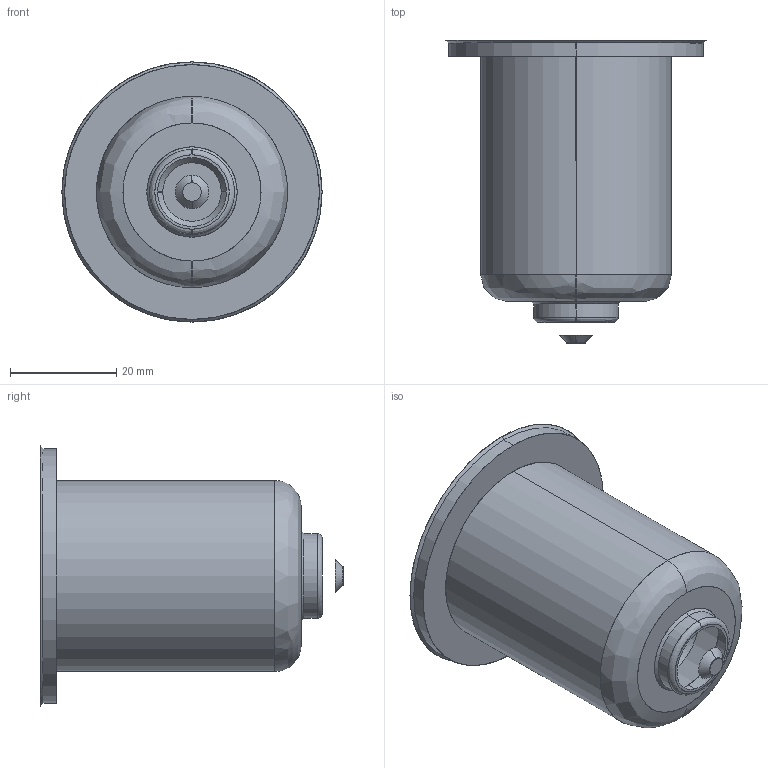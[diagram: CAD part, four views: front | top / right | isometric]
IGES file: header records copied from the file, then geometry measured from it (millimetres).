
Start section: SolidWorks IGES file using analytic representation for surfaces
Global section: file name: C:\Documents and Settings\ws-20\Desktop\TEM\Sede UGEP5501-M-A C-54 L-89 Ød-3.5.IGS; native system: SolidWorks 2012; preprocessor: SolidWorks 2012; author: ws-20; date: 120427.085527; units: millimetre
Bounding box: 49 x 57.14 x 49 mm (x, y, z)
Surface area: 9397.2 mm2 (no closed solid volume)
Topology: 0 solids, 0 shells, 25 faces, 436 edges, 436 vertices
Faces by surface type: revolution 16, bspline 9
